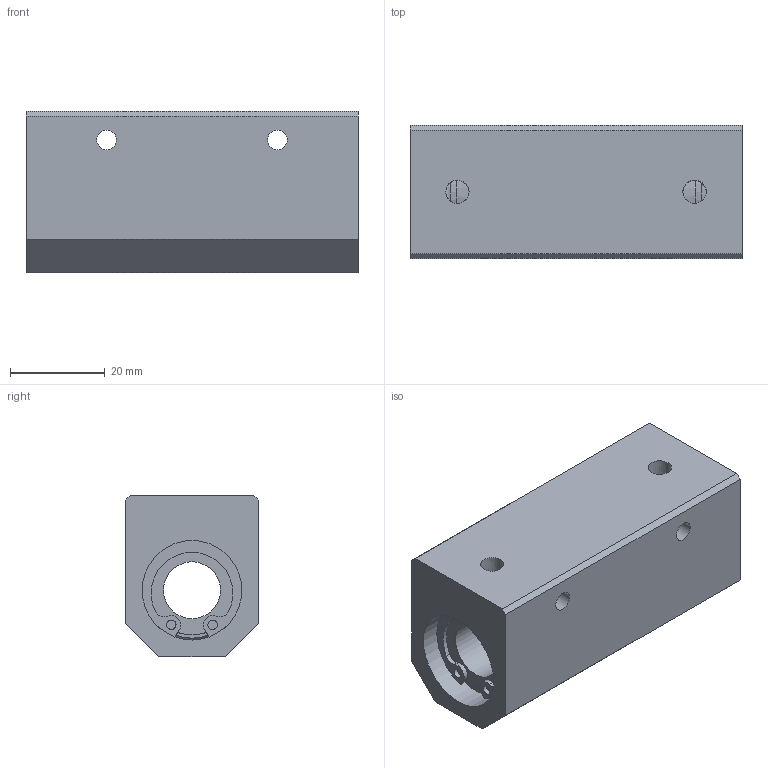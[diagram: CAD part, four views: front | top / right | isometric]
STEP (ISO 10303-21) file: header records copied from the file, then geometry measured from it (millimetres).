
FILE_DESCRIPTION((''),'2;1');
FILE_NAME('D:\製品 (図面)\カタログ用3D\リニアベアリング関連(改)\STEP形式\CHW\CHW12.stp','2010-01-25T09:39:41',('Tsuchiya'),(''),'Autodesk Inventor 10','Autodesk Inventor 10','');
FILE_SCHEMA(('AUTOMOTIVE_DESIGN { 1 0 10303 214 1 1 1 1 }'));
Length unit declared in the file: millimetre
Products named in the file (1): CHW12
Bounding box: 70 x 28 x 34 mm (x, y, z)
Volume: 51258.4 mm3; surface area: 15666.3 mm2
Topology: 1 solids, 4 shells, 84 faces, 206 edges, 129 vertices
Faces by surface type: bspline 37, plane 24, cylinder 21, torus 2
Full cylindrical faces by diameter (mm): 2 x2, 12 x1, 18.8 x2, 20 x2, 21 x5
Entity records: 2734 total; most frequent: CARTESIAN_POINT 960, DIRECTION 346, ORIENTED_EDGE 326, EDGE_CURVE 163, AXIS2_PLACEMENT_3D 145, EDGE_LOOP 140, VERTEX_POINT 115, CIRCLE 97
